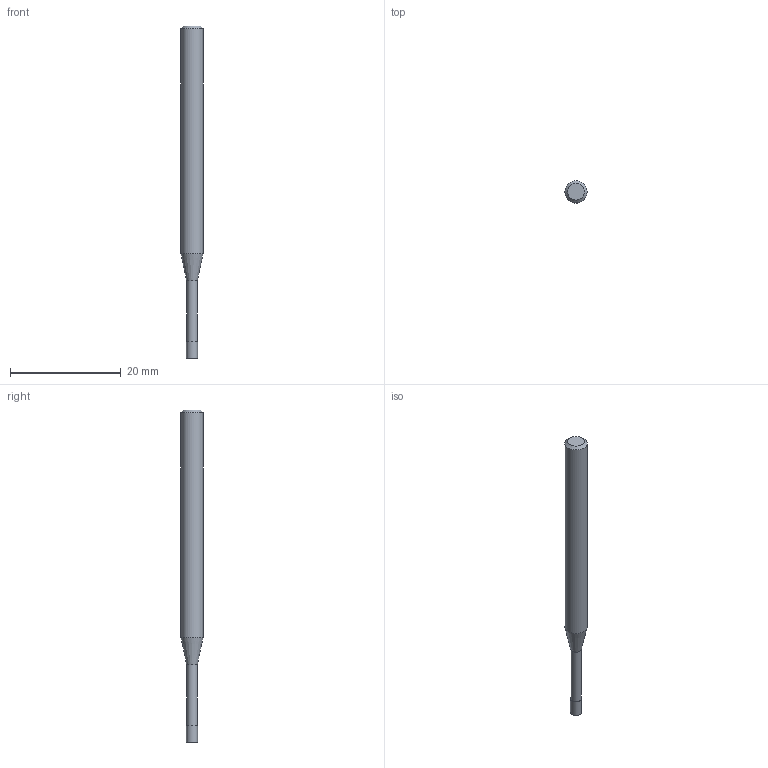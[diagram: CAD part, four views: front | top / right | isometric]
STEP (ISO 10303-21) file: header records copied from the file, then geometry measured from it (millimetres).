
FILE_DESCRIPTION((''),'2;1');
FILE_NAME('C:\Users\nsx150\AppData\Local\Temp\Mastercam 2021\17T8Q8S9EB\TEMP.step','2021-04-21T14:27:41',(''),(''),'STEP Write','Mastercam 2021 ... CNC Software, Inc.','');
FILE_SCHEMA(('AUTOMOTIVE_DESIGN'));
Length unit declared in the file: millimetre
Products named in the file (1): None
Bounding box: 4 x 4 x 60 mm (x, y, z)
Volume: 592.6 mm3; surface area: 667.1 mm2
Topology: 2 solids, 2 shells, 9 faces, 12 edges, 7 vertices
Faces by surface type: plane 4, cylinder 3, cone 2
Full cylindrical faces by diameter (mm): 1.94 x1, 2 x1, 4 x1
Entity records: 211 total; most frequent: DIRECTION 36, CARTESIAN_POINT 25, AXIS2_PLACEMENT_3D 18, ORIENTED_EDGE 14, EDGE_LOOP 14, STYLED_ITEM 12, ADVANCED_FACE 9, FACE_BOUND 8
